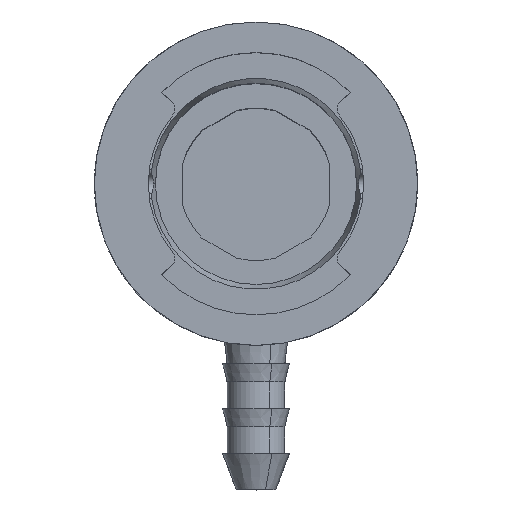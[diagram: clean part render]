
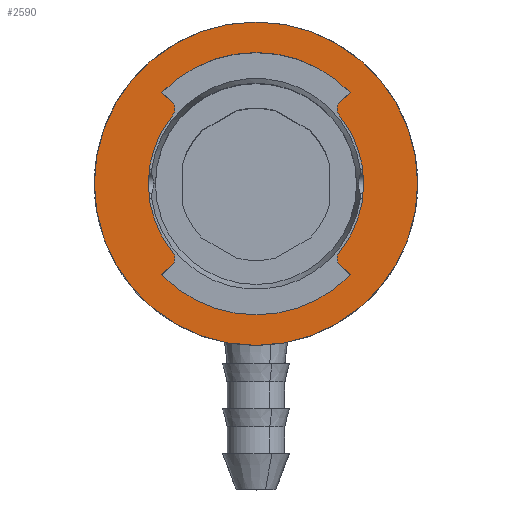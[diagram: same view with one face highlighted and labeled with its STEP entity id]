
A CAD part, top view. The second image highlights one B-rep face of the part: STEP entity #2590.
In plain terms, the highlighted planar face has unit normal (0, 0, 1).
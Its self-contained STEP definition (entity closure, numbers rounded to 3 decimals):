
#1739=CARTESIAN_POINT('Vertex',(4.624,3.824,37.5)) ;
#1755=CARTESIAN_POINT('Vertex',(4.624,-3.824,37.5)) ;
#1758=CARTESIAN_POINT('Axis2P3D Location',(0.,0.,37.5)) ;
#1786=CARTESIAN_POINT('Vertex',(4.662,-4.502,37.5)) ;
#1789=CARTESIAN_POINT('Axis2P3D Location',(5.009,-4.142,37.5)) ;
#1806=CARTESIAN_POINT('Line Origine',(4.957,4.786,37.5)) ;
#1810=CARTESIAN_POINT('Vertex',(5.251,5.071,37.5)) ;
#1812=CARTESIAN_POINT('Vertex',(4.662,4.502,37.5)) ;
#1882=CARTESIAN_POINT('Axis2P3D Location',(5.009,4.142,37.5)) ;
#1941=CARTESIAN_POINT('Vertex',(-5.251,5.071,37.5)) ;
#1944=CARTESIAN_POINT('Line Origine',(-4.957,4.786,37.5)) ;
#1948=CARTESIAN_POINT('Vertex',(-4.662,4.502,37.5)) ;
#1983=CARTESIAN_POINT('Vertex',(-4.624,-3.824,37.5)) ;
#1986=CARTESIAN_POINT('Axis2P3D Location',(-5.009,-4.142,37.5)) ;
#1990=CARTESIAN_POINT('Vertex',(-4.662,-4.502,37.5)) ;
#2014=CARTESIAN_POINT('Vertex',(-4.624,3.824,37.5)) ;
#2019=CARTESIAN_POINT('Axis2P3D Location',(0.,0.,37.5)) ;
#2046=CARTESIAN_POINT('Axis2P3D Location',(-5.009,4.142,37.5)) ;
#2098=CARTESIAN_POINT('Vertex',(5.251,-5.071,37.5)) ;
#2101=CARTESIAN_POINT('Line Origine',(4.957,-4.786,37.5)) ;
#2115=CARTESIAN_POINT('Line Origine',(-4.957,-4.786,37.5)) ;
#2119=CARTESIAN_POINT('Vertex',(-5.251,-5.071,37.5)) ;
#2350=CARTESIAN_POINT('Axis2P3D Location',(0.,0.,37.5)) ;
#2548=CARTESIAN_POINT('Axis2P3D Location',(0.,0.,37.5)) ;
#2553=CARTESIAN_POINT('Axis2P3D Location',(0.,0.,37.5)) ;
#2557=CARTESIAN_POINT('Vertex',(9.,0.,37.5)) ;
#2559=CARTESIAN_POINT('Vertex',(-9.,0.,37.5)) ;
#2562=CARTESIAN_POINT('Axis2P3D Location',(0.,0.,37.5)) ;
#2571=CARTESIAN_POINT('Axis2P3D Location',(0.,0.,37.5)) ;
#1759=DIRECTION('Axis2P3D Direction',(0.,0.,1.)) ;
#1790=DIRECTION('Axis2P3D Direction',(0.,0.,1.)) ;
#1807=DIRECTION('Vector Direction',(0.719,0.695,0.)) ;
#1883=DIRECTION('Axis2P3D Direction',(0.,0.,-1.)) ;
#1945=DIRECTION('Vector Direction',(-0.719,0.695,0.)) ;
#1987=DIRECTION('Axis2P3D Direction',(0.,0.,1.)) ;
#2020=DIRECTION('Axis2P3D Direction',(0.,0.,1.)) ;
#2047=DIRECTION('Axis2P3D Direction',(0.,0.,-1.)) ;
#2102=DIRECTION('Vector Direction',(0.719,-0.695,0.)) ;
#2116=DIRECTION('Vector Direction',(-0.719,-0.695,0.)) ;
#2351=DIRECTION('Axis2P3D Direction',(0.,0.,1.)) ;
#2549=DIRECTION('Axis2P3D Direction',(0.,0.,1.)) ;
#2550=DIRECTION('Axis2P3D XDirection',(1.,0.,0.)) ;
#2554=DIRECTION('Axis2P3D Direction',(0.,0.,1.)) ;
#2563=DIRECTION('Axis2P3D Direction',(0.,0.,1.)) ;
#2572=DIRECTION('Axis2P3D Direction',(0.,0.,1.)) ;
#1760=AXIS2_PLACEMENT_3D('Circle Axis2P3D',#1758,#1759,$) ;
#1791=AXIS2_PLACEMENT_3D('Circle Axis2P3D',#1789,#1790,$) ;
#1884=AXIS2_PLACEMENT_3D('Circle Axis2P3D',#1882,#1883,$) ;
#1988=AXIS2_PLACEMENT_3D('Circle Axis2P3D',#1986,#1987,$) ;
#2021=AXIS2_PLACEMENT_3D('Circle Axis2P3D',#2019,#2020,$) ;
#2048=AXIS2_PLACEMENT_3D('Circle Axis2P3D',#2046,#2047,$) ;
#2352=AXIS2_PLACEMENT_3D('Circle Axis2P3D',#2350,#2351,$) ;
#2551=AXIS2_PLACEMENT_3D('Plane Axis2P3D',#2548,#2549,#2550) ;
#2555=AXIS2_PLACEMENT_3D('Circle Axis2P3D',#2553,#2554,$) ;
#2564=AXIS2_PLACEMENT_3D('Circle Axis2P3D',#2562,#2563,$) ;
#2573=AXIS2_PLACEMENT_3D('Circle Axis2P3D',#2571,#2572,$) ;
#2568=ORIENTED_EDGE('',*,*,#2561,.T.) ;
#2569=ORIENTED_EDGE('',*,*,#2566,.T.) ;
#2577=ORIENTED_EDGE('',*,*,#1762,.T.) ;
#2578=ORIENTED_EDGE('',*,*,#1793,.F.) ;
#2579=ORIENTED_EDGE('',*,*,#2105,.T.) ;
#2580=ORIENTED_EDGE('',*,*,#2575,.F.) ;
#2581=ORIENTED_EDGE('',*,*,#2121,.T.) ;
#2582=ORIENTED_EDGE('',*,*,#1992,.F.) ;
#2583=ORIENTED_EDGE('',*,*,#2023,.T.) ;
#2584=ORIENTED_EDGE('',*,*,#2050,.F.) ;
#2585=ORIENTED_EDGE('',*,*,#1950,.T.) ;
#2586=ORIENTED_EDGE('',*,*,#2354,.F.) ;
#2587=ORIENTED_EDGE('',*,*,#1814,.T.) ;
#2588=ORIENTED_EDGE('',*,*,#1886,.F.) ;
#2589=FACE_BOUND('',#2576,.T.) ;
#1808=VECTOR('Line Direction',#1807,1.) ;
#1946=VECTOR('Line Direction',#1945,1.) ;
#2103=VECTOR('Line Direction',#2102,1.) ;
#2117=VECTOR('Line Direction',#2116,1.) ;
#2590=ADVANCED_FACE('\X2\96F64EF651E04F554F53\X0\',(#2570,#2589),#2552,.T.) ;
#1761=CIRCLE('generated circle',#1760,6.) ;
#1792=CIRCLE('generated circle',#1791,0.5) ;
#1885=CIRCLE('generated circle',#1884,0.5) ;
#1989=CIRCLE('generated circle',#1988,0.5) ;
#2022=CIRCLE('generated circle',#2021,6.) ;
#2049=CIRCLE('generated circle',#2048,0.5) ;
#2353=CIRCLE('generated circle',#2352,7.3) ;
#2556=CIRCLE('generated circle',#2555,9.) ;
#2565=CIRCLE('generated circle',#2564,9.) ;
#2574=CIRCLE('generated circle',#2573,7.3) ;
#1762=EDGE_CURVE('',#1740,#1756,#1761,.F.) ;
#1793=EDGE_CURVE('',#1787,#1756,#1792,.F.) ;
#1814=EDGE_CURVE('',#1811,#1813,#1809,.F.) ;
#1886=EDGE_CURVE('',#1740,#1813,#1885,.T.) ;
#1950=EDGE_CURVE('',#1949,#1942,#1947,.T.) ;
#1992=EDGE_CURVE('',#1984,#1991,#1989,.F.) ;
#2023=EDGE_CURVE('',#1984,#2015,#2022,.F.) ;
#2050=EDGE_CURVE('',#1949,#2015,#2049,.T.) ;
#2105=EDGE_CURVE('',#1787,#2099,#2104,.T.) ;
#2121=EDGE_CURVE('',#2120,#1991,#2118,.F.) ;
#2354=EDGE_CURVE('',#1811,#1942,#2353,.T.) ;
#2561=EDGE_CURVE('',#2558,#2560,#2556,.T.) ;
#2566=EDGE_CURVE('',#2560,#2558,#2565,.T.) ;
#2575=EDGE_CURVE('',#2120,#2099,#2574,.T.) ;
#2567=EDGE_LOOP('',(#2568,#2569)) ;
#2576=EDGE_LOOP('',(#2577,#2578,#2579,#2580,#2581,#2582,#2583,#2584,#2585,#2586,#2587,#2588)) ;
#2570=FACE_OUTER_BOUND('',#2567,.T.) ;
#1809=LINE('Line',#1806,#1808) ;
#1947=LINE('Line',#1944,#1946) ;
#2104=LINE('Line',#2101,#2103) ;
#2118=LINE('Line',#2115,#2117) ;
#2552=PLANE('Plane',#2551) ;
#1740=VERTEX_POINT('',#1739) ;
#1756=VERTEX_POINT('',#1755) ;
#1787=VERTEX_POINT('',#1786) ;
#1811=VERTEX_POINT('',#1810) ;
#1813=VERTEX_POINT('',#1812) ;
#1942=VERTEX_POINT('',#1941) ;
#1949=VERTEX_POINT('',#1948) ;
#1984=VERTEX_POINT('',#1983) ;
#1991=VERTEX_POINT('',#1990) ;
#2015=VERTEX_POINT('',#2014) ;
#2099=VERTEX_POINT('',#2098) ;
#2120=VERTEX_POINT('',#2119) ;
#2558=VERTEX_POINT('',#2557) ;
#2560=VERTEX_POINT('',#2559) ;
